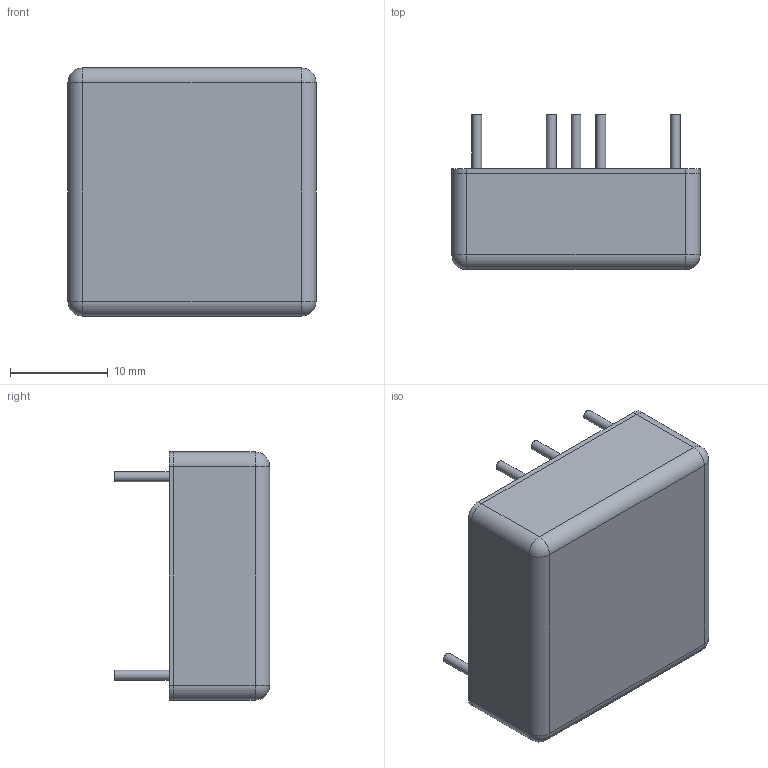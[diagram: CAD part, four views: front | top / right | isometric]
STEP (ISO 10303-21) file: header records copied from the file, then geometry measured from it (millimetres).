
FILE_DESCRIPTION (( 'STEP AP203' ), '1' );
FILE_NAME ('DKMW20W8,S 3D¹Ï260506.STEP', '2026-05-06T03:44:28', ( '' ), ( '' ), 'SwSTEP 2.0', 'SolidWorks 2020', '' );
FILE_SCHEMA (( 'CONFIG_CONTROL_DESIGN' ));
Length unit declared in the file: millimetre
Products named in the file (1): DKMW20W8,S 3D圖260506
Bounding box: 25.4 x 15.9 x 25.4 mm (x, y, z)
Volume: 6607.6 mm3; surface area: 3689.2 mm2
Topology: 2 solids, 2 shells, 105 faces, 252 edges, 166 vertices
Faces by surface type: plane 48, cylinder 43, cone 9, sphere 4, bspline 1
Full cylindrical faces by diameter (mm): 1 x6, 1.1 x9
Entity records: 3416 total; most frequent: CARTESIAN_POINT 902, DIRECTION 516, ORIENTED_EDGE 448, EDGE_CURVE 224, AXIS2_PLACEMENT_3D 209, EDGE_LOOP 168, VERTEX_POINT 166, FACE_OUTER_BOUND 120
